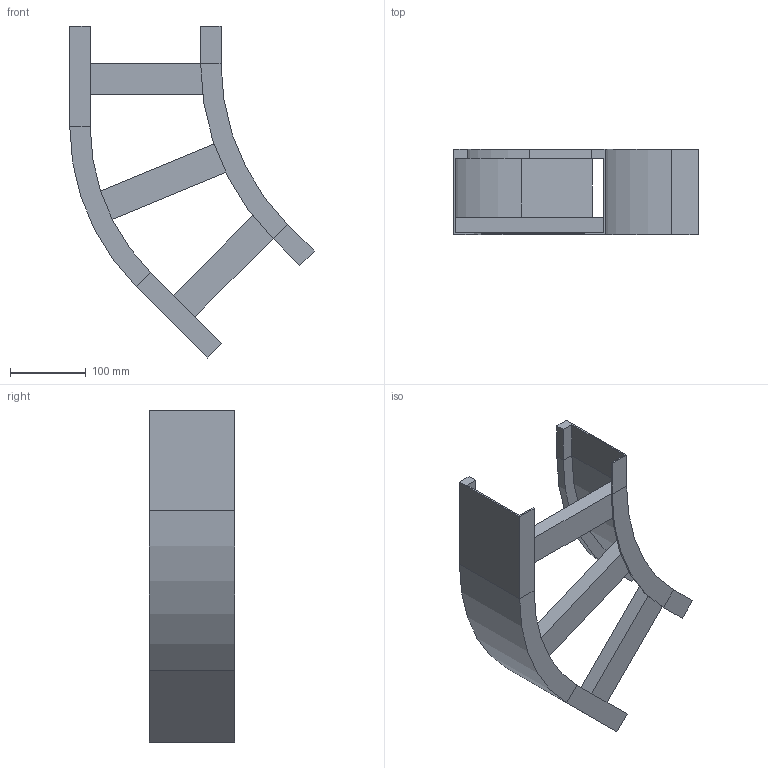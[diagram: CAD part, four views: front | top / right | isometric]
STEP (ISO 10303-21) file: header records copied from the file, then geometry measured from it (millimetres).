
FILE_DESCRIPTION (( 'STEP AP214' ), '1' );
FILE_NAME ('B2_11B3J200.step', '2025-02-21T15:14:45', ( '' ), ( '' ), 'SwSTEP 2.0', 'SolidWorks 2023', '' );
FILE_SCHEMA (( 'AUTOMOTIVE_DESIGN' ));
Length unit declared in the file: millimetre
Products named in the file (5): B2_11B3J200; B2_LONGH.ESTERNO 45°_H112.5_R300+200; B2_LONGH.INTERNO 45°_H112.5_R300; TRAVERSINO_L211; TRAVERSINO_200
Assembly tree (5 placements, depth 2):
  B2_11B3J200
    B2_LONGH.INTERNO 45°_H112.5_R300
    B2_LONGH.ESTERNO 45°_H112.5_R300+200
    TRAVERSINO_200  x2
    TRAVERSINO_L211
Bounding box: 323.22 x 112.5 x 438.91 mm (x, y, z)
Volume: 879273.7 mm3; surface area: 339974.5 mm2
Topology: 5 solids, 5 shells, 70 faces, 148 edges, 88 vertices
Faces by surface type: plane 62, cylinder 8
Entity records: 1822 total; most frequent: DIRECTION 296, CARTESIAN_POINT 288, ORIENTED_EDGE 272, EDGE_CURVE 136, LINE 120, VECTOR 120, AXIS2_PLACEMENT_3D 88, VERTEX_POINT 80
